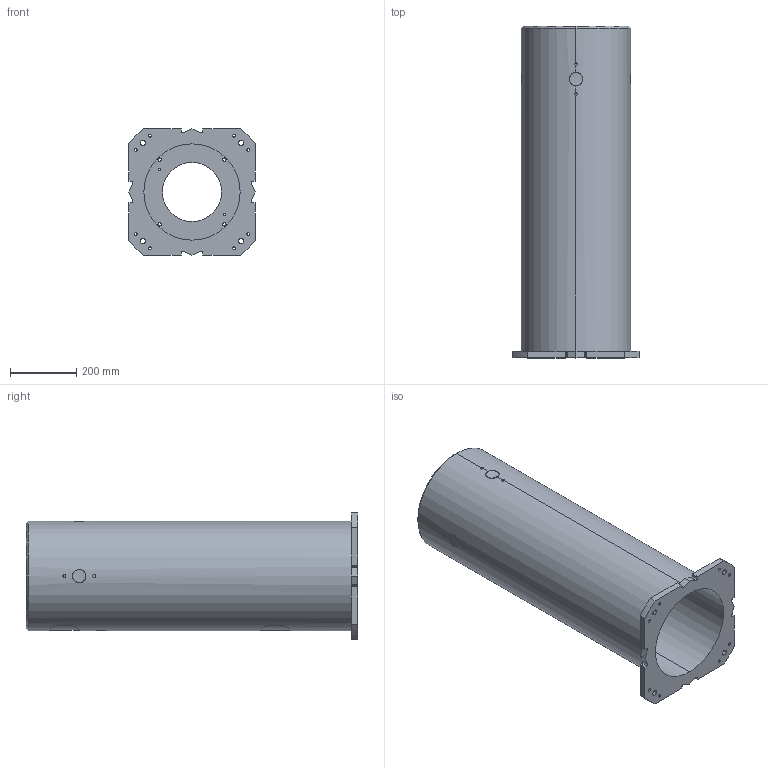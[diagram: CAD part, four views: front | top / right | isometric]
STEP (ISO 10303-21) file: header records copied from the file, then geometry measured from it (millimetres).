
FILE_DESCRIPTION (( 'STEP AP214' ), '1' );
FILE_NAME ('E-1000.STEP', '2025-12-05T12:52:48', ( '' ), ( '' ), 'SwSTEP 2.0', 'SolidWorks 2022', '' );
FILE_SCHEMA (( 'AUTOMOTIVE_DESIGN' ));
Length unit declared in the file: millimetre
Products named in the file (1): E-1000
Bounding box: 380 x 1000 x 380 mm (x, y, z)
Volume: 21205642.3 mm3; surface area: 2184990.7 mm2
Topology: 1 solids, 1 shells, 171 faces, 449 edges, 292 vertices
Faces by surface type: cylinder 117, plane 28, bspline 24, cone 2
Entity records: 12364 total; most frequent: CARTESIAN_POINT 7665, ORIENTED_EDGE 898, DIRECTION 729, EDGE_CURVE 449, VERTEX_POINT 292, AXIS2_PLACEMENT_3D 274, EDGE_LOOP 221, VECTOR 181
